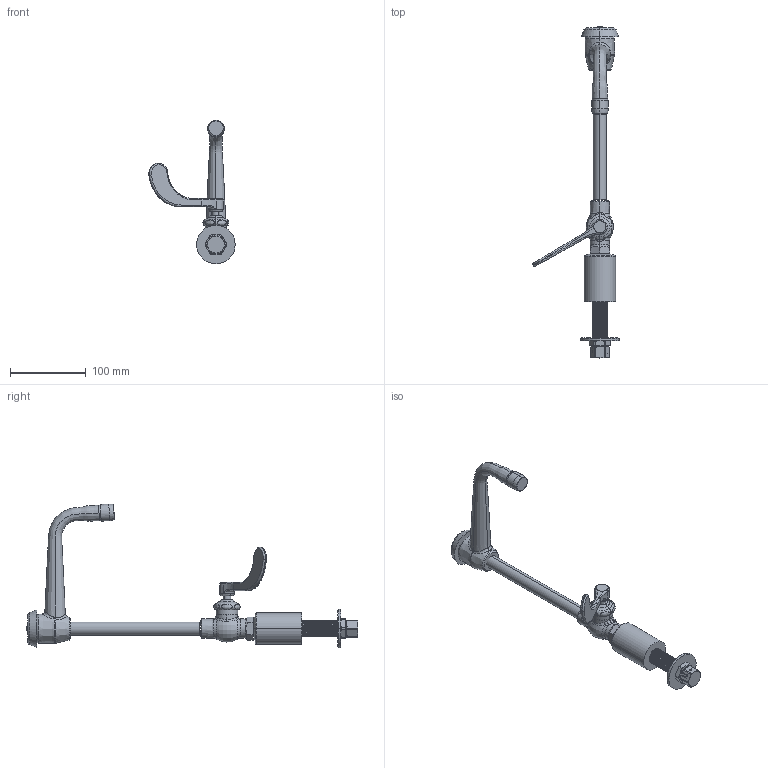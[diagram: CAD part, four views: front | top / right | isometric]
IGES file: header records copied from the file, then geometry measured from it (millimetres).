
Start section:  PTC IGES file: LWS6-A26-G.igs
Global section: file name: LWS6-A26-G.igs; native system: Creo Parametric by PTC Inc.; preprocessor: 2017260; author: usch_engrender; organization: Unknown; date: 20190912.111620; units: inch
Bounding box: 113.79 x 437.57 x 189.44 mm (x, y, z)
Surface area: 81391.9 mm2 (no closed solid volume)
Topology: 0 solids, 26 shells, 309 faces, 820 edges, 537 vertices
Faces by surface type: revolution 225, bspline 84
